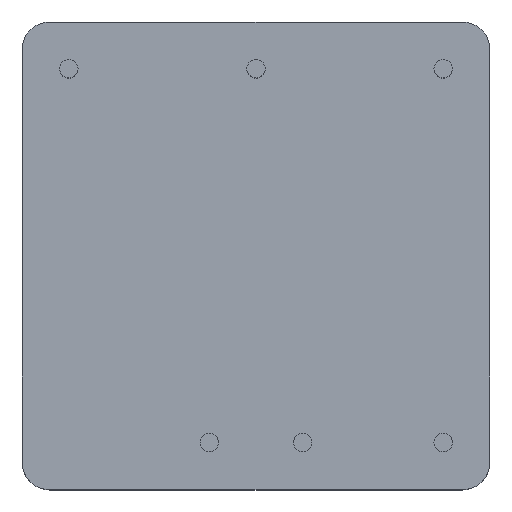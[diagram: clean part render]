
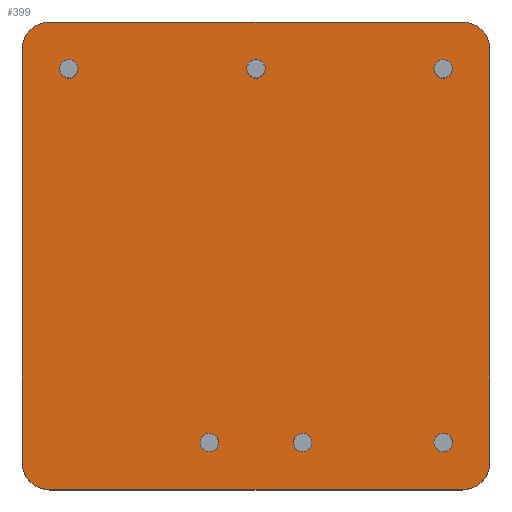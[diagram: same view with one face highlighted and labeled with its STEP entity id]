
A CAD part, top view. The second image highlights one B-rep face of the part: STEP entity #399.
In plain terms, the highlighted planar face has unit normal (0, 0, 1).
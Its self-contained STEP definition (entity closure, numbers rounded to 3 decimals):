
#31=LINE('',#703,#51);
#32=LINE('',#705,#52);
#33=LINE('',#707,#53);
#34=LINE('',#708,#54);
#51=VECTOR('',#587,22.4);
#52=VECTOR('',#590,22.4);
#53=VECTOR('',#593,22.4);
#54=VECTOR('',#594,22.4);
#67=PLANE('',#459);
#77=FACE_BOUND('',#146,.T.);
#78=FACE_BOUND('',#147,.T.);
#79=FACE_BOUND('',#148,.T.);
#80=FACE_BOUND('',#149,.T.);
#81=FACE_BOUND('',#150,.T.);
#82=FACE_BOUND('',#151,.T.);
#109=FACE_OUTER_BOUND('',#145,.T.);
#145=EDGE_LOOP('',(#333,#334,#335,#336,#337,#338,#339,#340));
#146=EDGE_LOOP('',(#341));
#147=EDGE_LOOP('',(#342));
#148=EDGE_LOOP('',(#343));
#149=EDGE_LOOP('',(#344));
#150=EDGE_LOOP('',(#345));
#151=EDGE_LOOP('',(#346));
#156=CIRCLE('',#407,0.5);
#158=CIRCLE('',#411,0.5);
#160=CIRCLE('',#415,0.5);
#162=CIRCLE('',#419,0.5);
#164=CIRCLE('',#423,0.5);
#166=CIRCLE('',#427,0.5);
#179=CIRCLE('',#447,1.5);
#180=CIRCLE('',#451,1.5);
#181=CIRCLE('',#453,1.5);
#182=CIRCLE('',#456,1.5);
#184=VERTEX_POINT('',#605);
#186=VERTEX_POINT('',#611);
#188=VERTEX_POINT('',#617);
#190=VERTEX_POINT('',#623);
#192=VERTEX_POINT('',#629);
#194=VERTEX_POINT('',#635);
#207=VERTEX_POINT('',#670);
#208=VERTEX_POINT('',#671);
#209=VERTEX_POINT('',#682);
#210=VERTEX_POINT('',#683);
#211=VERTEX_POINT('',#688);
#212=VERTEX_POINT('',#689);
#213=VERTEX_POINT('',#697);
#214=VERTEX_POINT('',#698);
#216=EDGE_CURVE('',#184,#184,#156,.T.);
#218=EDGE_CURVE('',#186,#186,#158,.T.);
#220=EDGE_CURVE('',#188,#188,#160,.T.);
#222=EDGE_CURVE('',#190,#190,#162,.T.);
#224=EDGE_CURVE('',#192,#192,#164,.T.);
#226=EDGE_CURVE('',#194,#194,#166,.T.);
#241=EDGE_CURVE('',#207,#208,#179,.T.);
#248=EDGE_CURVE('',#209,#210,#180,.T.);
#251=EDGE_CURVE('',#211,#212,#181,.T.);
#256=EDGE_CURVE('',#213,#214,#182,.T.);
#259=EDGE_CURVE('',#209,#214,#31,.T.);
#260=EDGE_CURVE('',#213,#212,#32,.T.);
#261=EDGE_CURVE('',#211,#208,#33,.T.);
#262=EDGE_CURVE('',#207,#210,#34,.T.);
#333=ORIENTED_EDGE('',*,*,#248,.F.);
#334=ORIENTED_EDGE('',*,*,#259,.T.);
#335=ORIENTED_EDGE('',*,*,#256,.F.);
#336=ORIENTED_EDGE('',*,*,#260,.T.);
#337=ORIENTED_EDGE('',*,*,#251,.F.);
#338=ORIENTED_EDGE('',*,*,#261,.T.);
#339=ORIENTED_EDGE('',*,*,#241,.F.);
#340=ORIENTED_EDGE('',*,*,#262,.T.);
#341=ORIENTED_EDGE('',*,*,#216,.T.);
#342=ORIENTED_EDGE('',*,*,#218,.T.);
#343=ORIENTED_EDGE('',*,*,#220,.T.);
#344=ORIENTED_EDGE('',*,*,#222,.T.);
#345=ORIENTED_EDGE('',*,*,#224,.T.);
#346=ORIENTED_EDGE('',*,*,#226,.T.);
#399=ADVANCED_FACE('',(#109,#77,#78,#79,#80,#81,#82),#67,.T.);
#407=AXIS2_PLACEMENT_3D('',#606,#469,#470);
#411=AXIS2_PLACEMENT_3D('',#612,#477,#478);
#415=AXIS2_PLACEMENT_3D('',#618,#485,#486);
#419=AXIS2_PLACEMENT_3D('',#624,#493,#494);
#423=AXIS2_PLACEMENT_3D('',#630,#501,#502);
#427=AXIS2_PLACEMENT_3D('',#636,#509,#510);
#447=AXIS2_PLACEMENT_3D('',#672,#551,#552);
#451=AXIS2_PLACEMENT_3D('',#684,#565,#566);
#453=AXIS2_PLACEMENT_3D('',#690,#571,#572);
#456=AXIS2_PLACEMENT_3D('',#699,#581,#582);
#459=AXIS2_PLACEMENT_3D('',#706,#591,#592);
#469=DIRECTION('center_axis',(0.,0.,-1.));
#470=DIRECTION('ref_axis',(-1.,0.,0.));
#477=DIRECTION('center_axis',(0.,0.,-1.));
#478=DIRECTION('ref_axis',(-1.,0.,0.));
#485=DIRECTION('center_axis',(0.,0.,-1.));
#486=DIRECTION('ref_axis',(-1.,0.,0.));
#493=DIRECTION('center_axis',(0.,0.,-1.));
#494=DIRECTION('ref_axis',(-1.,0.,0.));
#501=DIRECTION('center_axis',(0.,0.,-1.));
#502=DIRECTION('ref_axis',(-1.,0.,0.));
#509=DIRECTION('center_axis',(0.,0.,-1.));
#510=DIRECTION('ref_axis',(-1.,0.,0.));
#551=DIRECTION('center_axis',(0.,0.,-1.));
#552=DIRECTION('ref_axis',(0.707,0.707,0.));
#565=DIRECTION('center_axis',(0.,0.,-1.));
#566=DIRECTION('ref_axis',(-0.707,0.707,0.));
#571=DIRECTION('center_axis',(0.,0.,-1.));
#572=DIRECTION('ref_axis',(0.707,-0.707,0.));
#581=DIRECTION('center_axis',(0.,0.,-1.));
#582=DIRECTION('ref_axis',(-0.707,-0.707,0.));
#587=DIRECTION('',(0.,-1.,0.));
#590=DIRECTION('',(1.,0.,0.));
#591=DIRECTION('center_axis',(0.,0.,1.));
#592=DIRECTION('ref_axis',(1.,0.,0.));
#593=DIRECTION('',(0.,1.,0.));
#594=DIRECTION('',(-1.,0.,0.));
#605=CARTESIAN_POINT('',(0.5,10.15,10.2));
#606=CARTESIAN_POINT('Origin',(0.,10.15,10.2));
#611=CARTESIAN_POINT('',(10.66,-10.15,10.2));
#612=CARTESIAN_POINT('Origin',(10.16,-10.15,10.2));
#617=CARTESIAN_POINT('',(-2.04,-10.15,10.2));
#618=CARTESIAN_POINT('Origin',(-2.54,-10.15,10.2));
#623=CARTESIAN_POINT('',(3.04,-10.15,10.2));
#624=CARTESIAN_POINT('Origin',(2.54,-10.15,10.2));
#629=CARTESIAN_POINT('',(-9.66,10.15,10.2));
#630=CARTESIAN_POINT('Origin',(-10.16,10.15,10.2));
#635=CARTESIAN_POINT('',(10.66,10.15,10.2));
#636=CARTESIAN_POINT('Origin',(10.16,10.15,10.2));
#670=CARTESIAN_POINT('',(11.2,12.7,10.2));
#671=CARTESIAN_POINT('',(12.7,11.2,10.2));
#672=CARTESIAN_POINT('Origin',(11.2,11.2,10.2));
#682=CARTESIAN_POINT('',(-12.7,11.2,10.2));
#683=CARTESIAN_POINT('',(-11.2,12.7,10.2));
#684=CARTESIAN_POINT('Origin',(-11.2,11.2,10.2));
#688=CARTESIAN_POINT('',(12.7,-11.2,10.2));
#689=CARTESIAN_POINT('',(11.2,-12.7,10.2));
#690=CARTESIAN_POINT('Origin',(11.2,-11.2,10.2));
#697=CARTESIAN_POINT('',(-11.2,-12.7,10.2));
#698=CARTESIAN_POINT('',(-12.7,-11.2,10.2));
#699=CARTESIAN_POINT('Origin',(-11.2,-11.2,10.2));
#703=CARTESIAN_POINT('',(-12.7,-12.7,10.2));
#705=CARTESIAN_POINT('',(12.7,-12.7,10.2));
#706=CARTESIAN_POINT('Origin',(0.,0.,10.2));
#707=CARTESIAN_POINT('',(12.7,12.7,10.2));
#708=CARTESIAN_POINT('',(-12.7,12.7,10.2));
